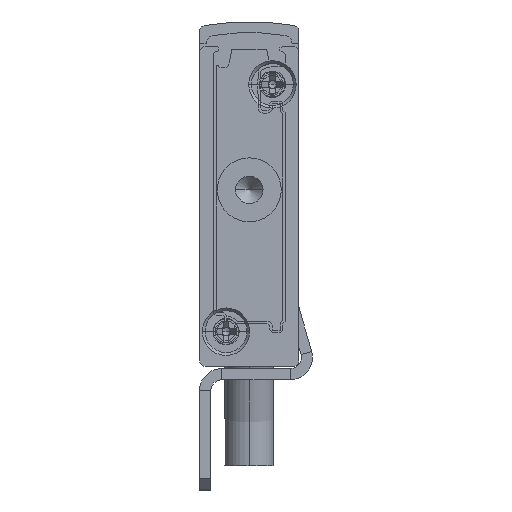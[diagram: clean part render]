
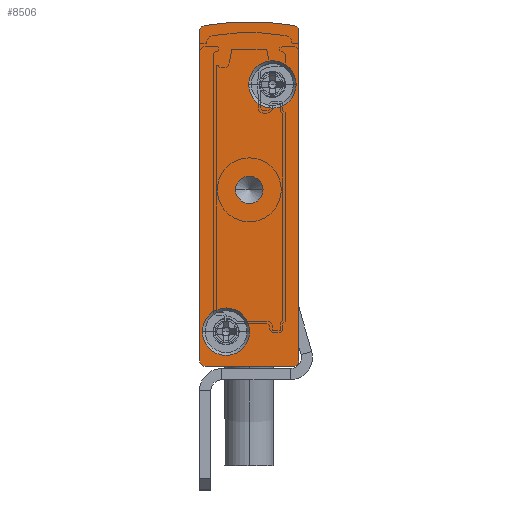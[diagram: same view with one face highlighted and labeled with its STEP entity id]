
A CAD part, front view. The second image highlights one B-rep face of the part: STEP entity #8506.
In plain terms, the highlighted planar face has unit normal (0, -1, 0).
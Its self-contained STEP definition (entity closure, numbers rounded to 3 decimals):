
#47 = FACE_BOUND ( 'NONE', #10321, .T. ) ;
#64 = DIRECTION ( 'NONE',  ( 1., 0., 0. ) ) ;
#198 = VERTEX_POINT ( 'NONE', #14620 ) ;
#317 = CIRCLE ( 'NONE', #22675, 2.15 ) ;
#589 = CARTESIAN_POINT ( 'NONE',  ( -4.45, -2.5, 3.15 ) ) ;
#815 = CIRCLE ( 'NONE', #12897, 0.5 ) ;
#1210 = FACE_BOUND ( 'NONE', #15868, .T. ) ;
#1431 = CARTESIAN_POINT ( 'NONE',  ( -0.5, -2.5, 0. ) ) ;
#1534 = DIRECTION ( 'NONE',  ( 0., 1., 0. ) ) ;
#2117 = CARTESIAN_POINT ( 'NONE',  ( -9., -2.5, 30.402 ) ) ;
#2634 = FACE_OUTER_BOUND ( 'NONE', #2736, .T. ) ;
#2736 = EDGE_LOOP ( 'NONE', ( #8822, #22723, #11913, #10503, #11234, #23984, #23192, #13964 ) ) ;
#2743 = EDGE_CURVE ( 'NONE', #15363, #11104, #15763, .T. ) ;
#2749 = CIRCLE ( 'NONE', #6582, 2.15 ) ;
#2871 = CIRCLE ( 'NONE', #17989, 1.25 ) ;
#3807 = CARTESIAN_POINT ( 'NONE',  ( -8.5, -2.5, 30.402 ) ) ;
#4058 = CARTESIAN_POINT ( 'NONE',  ( -9., -2.5, 30.402 ) ) ;
#4177 = CARTESIAN_POINT ( 'NONE',  ( -8.5, -2.5, 30.402 ) ) ;
#4266 = CARTESIAN_POINT ( 'NONE',  ( -2.4, -2.5, 25.55 ) ) ;
#4338 = DIRECTION ( 'NONE',  ( -1., 0., 0. ) ) ;
#4370 = CARTESIAN_POINT ( 'NONE',  ( -2.4, -2.5, 25.55 ) ) ;
#4562 = VERTEX_POINT ( 'NONE', #10652 ) ;
#4625 = VERTEX_POINT ( 'NONE', #19872 ) ;
#4664 = EDGE_CURVE ( 'NONE', #5439, #5223, #317, .T. ) ;
#4779 = LINE ( 'NONE', #6207, #11141 ) ;
#4850 = CARTESIAN_POINT ( 'NONE',  ( -8.592, -2.5, 30.893 ) ) ;
#5028 = CARTESIAN_POINT ( 'NONE',  ( -4.5, -2.5, 16. ) ) ;
#5072 = AXIS2_PLACEMENT_3D ( 'NONE', #4177, #6018, #4338 ) ;
#5223 = VERTEX_POINT ( 'NONE', #589 ) ;
#5401 = DIRECTION ( 'NONE',  ( 0., -1., 0. ) ) ;
#5439 = VERTEX_POINT ( 'NONE', #8827 ) ;
#5718 = EDGE_CURVE ( 'NONE', #18272, #23030, #21166, .T. ) ;
#5839 = ORIENTED_EDGE ( 'NONE', *, *, #23630, .F. ) ;
#5944 = DIRECTION ( 'NONE',  ( 1., 0., 0. ) ) ;
#6003 = EDGE_CURVE ( 'NONE', #10072, #16318, #2871, .T. ) ;
#6018 = DIRECTION ( 'NONE',  ( 0., 1., 0. ) ) ;
#6207 = CARTESIAN_POINT ( 'NONE',  ( -8.5, -2.5, 0. ) ) ;
#6381 = CIRCLE ( 'NONE', #6598, 0.5 ) ;
#6483 = DIRECTION ( 'NONE',  ( -1., 0., 0. ) ) ;
#6575 = EDGE_LOOP ( 'NONE', ( #16722, #8863 ) ) ;
#6582 = AXIS2_PLACEMENT_3D ( 'NONE', #4266, #8085, #5944 ) ;
#6598 = AXIS2_PLACEMENT_3D ( 'NONE', #17636, #14558, #9015 ) ;
#6700 = CARTESIAN_POINT ( 'NONE',  ( -3.25, -2.5, 16. ) ) ;
#6875 = DIRECTION ( 'NONE',  ( -1., 0., 0. ) ) ;
#6930 = EDGE_CURVE ( 'NONE', #15649, #4562, #16250, .T. ) ;
#7764 = CIRCLE ( 'NONE', #10783, 1.25 ) ;
#8085 = DIRECTION ( 'NONE',  ( 0., -1., 0. ) ) ;
#8140 = DIRECTION ( 'NONE',  ( 0., 1., 0. ) ) ;
#8228 = CARTESIAN_POINT ( 'NONE',  ( -0.5, -2.5, 0.5 ) ) ;
#8343 = AXIS2_PLACEMENT_3D ( 'NONE', #3807, #11515, #11349 ) ;
#8506 = ADVANCED_FACE ( 'NONE', ( #47, #17415, #2634, #1210 ), #8703, .F. ) ;
#8553 = EDGE_CURVE ( 'NONE', #198, #18272, #6381, .T. ) ;
#8703 = PLANE ( 'NONE',  #8343 ) ;
#8822 = ORIENTED_EDGE ( 'NONE', *, *, #14822, .F. ) ;
#8827 = CARTESIAN_POINT ( 'NONE',  ( -8.75, -2.5, 3.15 ) ) ;
#8863 = ORIENTED_EDGE ( 'NONE', *, *, #4664, .F. ) ;
#9014 = EDGE_CURVE ( 'NONE', #16318, #10072, #7764, .T. ) ;
#9015 = DIRECTION ( 'NONE',  ( -1., 0., 0. ) ) ;
#9274 = CARTESIAN_POINT ( 'NONE',  ( -5.75, -2.5, 16. ) ) ;
#9497 = DIRECTION ( 'NONE',  ( 0., 0., 1. ) ) ;
#9748 = AXIS2_PLACEMENT_3D ( 'NONE', #20330, #14564, #64 ) ;
#10072 = VERTEX_POINT ( 'NONE', #9274 ) ;
#10321 = EDGE_LOOP ( 'NONE', ( #5839, #11706 ) ) ;
#10503 = ORIENTED_EDGE ( 'NONE', *, *, #15511, .F. ) ;
#10652 = CARTESIAN_POINT ( 'NONE',  ( -0.408, -2.5, 30.893 ) ) ;
#10783 = AXIS2_PLACEMENT_3D ( 'NONE', #14686, #16463, #18195 ) ;
#10860 = CIRCLE ( 'NONE', #9748, 2.15 ) ;
#11104 = VERTEX_POINT ( 'NONE', #11181 ) ;
#11105 = CARTESIAN_POINT ( 'NONE',  ( -4.55, -2.5, 25.55 ) ) ;
#11115 = EDGE_CURVE ( 'NONE', #5223, #5439, #10860, .T. ) ;
#11141 = VECTOR ( 'NONE', #17551, 1000. ) ;
#11162 = AXIS2_PLACEMENT_3D ( 'NONE', #13853, #19372, #6483 ) ;
#11181 = CARTESIAN_POINT ( 'NONE',  ( -0.25, -2.5, 25.55 ) ) ;
#11234 = ORIENTED_EDGE ( 'NONE', *, *, #17623, .F. ) ;
#11349 = DIRECTION ( 'NONE',  ( -1., 0., 0. ) ) ;
#11427 = EDGE_CURVE ( 'NONE', #4562, #4625, #815, .T. ) ;
#11515 = DIRECTION ( 'NONE',  ( 0., 1., 0. ) ) ;
#11618 = DIRECTION ( 'NONE',  ( 0., 0., -1. ) ) ;
#11706 = ORIENTED_EDGE ( 'NONE', *, *, #2743, .F. ) ;
#11913 = ORIENTED_EDGE ( 'NONE', *, *, #8553, .F. ) ;
#11935 = EDGE_CURVE ( 'NONE', #4625, #17484, #21090, .T. ) ;
#12218 = CARTESIAN_POINT ( 'NONE',  ( 0., -2.5, 0.5 ) ) ;
#12897 = AXIS2_PLACEMENT_3D ( 'NONE', #17867, #15841, #14128 ) ;
#13853 = CARTESIAN_POINT ( 'NONE',  ( -4.5, -2.5, 7.592 ) ) ;
#13964 = ORIENTED_EDGE ( 'NONE', *, *, #6930, .F. ) ;
#14006 = ORIENTED_EDGE ( 'NONE', *, *, #6003, .T. ) ;
#14128 = DIRECTION ( 'NONE',  ( -1., 0., 0. ) ) ;
#14305 = DIRECTION ( 'NONE',  ( -1., 0., 0. ) ) ;
#14558 = DIRECTION ( 'NONE',  ( 0., 1., 0. ) ) ;
#14564 = DIRECTION ( 'NONE',  ( 0., -1., 0. ) ) ;
#14620 = CARTESIAN_POINT ( 'NONE',  ( -8.5, -2.5, 0. ) ) ;
#14686 = CARTESIAN_POINT ( 'NONE',  ( -4.5, -2.5, 16. ) ) ;
#14822 = EDGE_CURVE ( 'NONE', #23030, #15649, #17843, .T. ) ;
#14892 = CIRCLE ( 'NONE', #18491, 0.5 ) ;
#15363 = VERTEX_POINT ( 'NONE', #11105 ) ;
#15511 = EDGE_CURVE ( 'NONE', #17064, #198, #4779, .T. ) ;
#15649 = VERTEX_POINT ( 'NONE', #4850 ) ;
#15763 = CIRCLE ( 'NONE', #16694, 2.15 ) ;
#15841 = DIRECTION ( 'NONE',  ( 0., 1., 0. ) ) ;
#15868 = EDGE_LOOP ( 'NONE', ( #14006, #22048 ) ) ;
#16234 = VECTOR ( 'NONE', #9497, 1000. ) ;
#16250 = CIRCLE ( 'NONE', #11162, 23.658 ) ;
#16318 = VERTEX_POINT ( 'NONE', #6700 ) ;
#16463 = DIRECTION ( 'NONE',  ( 0., 1., 0. ) ) ;
#16694 = AXIS2_PLACEMENT_3D ( 'NONE', #4370, #17556, #23012 ) ;
#16722 = ORIENTED_EDGE ( 'NONE', *, *, #11115, .F. ) ;
#17064 = VERTEX_POINT ( 'NONE', #1431 ) ;
#17090 = CARTESIAN_POINT ( 'NONE',  ( 0., -2.5, 30.402 ) ) ;
#17415 = FACE_BOUND ( 'NONE', #6575, .T. ) ;
#17484 = VERTEX_POINT ( 'NONE', #12218 ) ;
#17551 = DIRECTION ( 'NONE',  ( -1., 0., 0. ) ) ;
#17556 = DIRECTION ( 'NONE',  ( 0., -1., 0. ) ) ;
#17623 = EDGE_CURVE ( 'NONE', #17484, #17064, #14892, .T. ) ;
#17636 = CARTESIAN_POINT ( 'NONE',  ( -8.5, -2.5, 0.5 ) ) ;
#17843 = CIRCLE ( 'NONE', #5072, 0.5 ) ;
#17867 = CARTESIAN_POINT ( 'NONE',  ( -0.5, -2.5, 30.402 ) ) ;
#17989 = AXIS2_PLACEMENT_3D ( 'NONE', #5028, #1534, #6875 ) ;
#18195 = DIRECTION ( 'NONE',  ( -1., 0., 0. ) ) ;
#18272 = VERTEX_POINT ( 'NONE', #18733 ) ;
#18400 = DIRECTION ( 'NONE',  ( 1., 0., 0. ) ) ;
#18466 = CARTESIAN_POINT ( 'NONE',  ( -6.6, -2.5, 3.15 ) ) ;
#18491 = AXIS2_PLACEMENT_3D ( 'NONE', #8228, #8140, #14305 ) ;
#18733 = CARTESIAN_POINT ( 'NONE',  ( -9., -2.5, 0.5 ) ) ;
#19372 = DIRECTION ( 'NONE',  ( 0., 1., 0. ) ) ;
#19872 = CARTESIAN_POINT ( 'NONE',  ( 0., -2.5, 30.402 ) ) ;
#20330 = CARTESIAN_POINT ( 'NONE',  ( -6.6, -2.5, 3.15 ) ) ;
#21090 = LINE ( 'NONE', #17090, #23148 ) ;
#21166 = LINE ( 'NONE', #4058, #16234 ) ;
#22048 = ORIENTED_EDGE ( 'NONE', *, *, #9014, .T. ) ;
#22675 = AXIS2_PLACEMENT_3D ( 'NONE', #18466, #5401, #18400 ) ;
#22723 = ORIENTED_EDGE ( 'NONE', *, *, #5718, .F. ) ;
#23012 = DIRECTION ( 'NONE',  ( 1., 0., 0. ) ) ;
#23030 = VERTEX_POINT ( 'NONE', #2117 ) ;
#23148 = VECTOR ( 'NONE', #11618, 1000. ) ;
#23192 = ORIENTED_EDGE ( 'NONE', *, *, #11427, .F. ) ;
#23630 = EDGE_CURVE ( 'NONE', #11104, #15363, #2749, .T. ) ;
#23984 = ORIENTED_EDGE ( 'NONE', *, *, #11935, .F. ) ;
